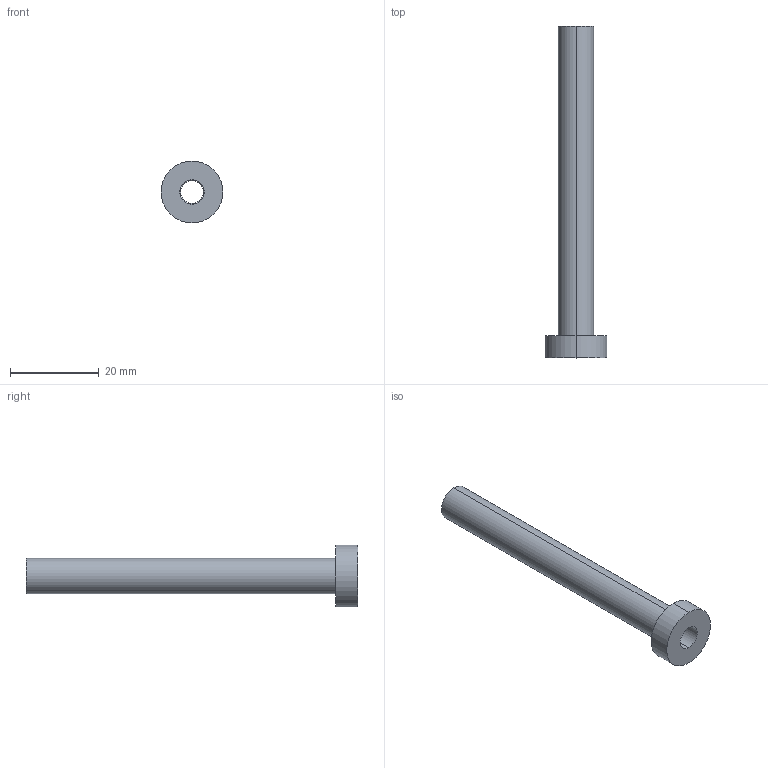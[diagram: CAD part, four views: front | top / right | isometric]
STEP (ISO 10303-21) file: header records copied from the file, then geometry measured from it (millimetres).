
FILE_DESCRIPTION (( 'STEP AP214' ), '1' );
FILE_NAME ('ET-ETN-5,2x75.STEP', '2019-12-16T16:49:42', ( 'August' ), ( '' ), 'SwSTEP 2.0', 'SolidWorks 2018', '' );
FILE_SCHEMA (( 'AUTOMOTIVE_DESIGN' ));
Length unit declared in the file: millimetre
Products named in the file (1): ET-ETN-5,2x75
Bounding box: 14 x 75 x 14 mm (x, y, z)
Volume: 2620 mm3; surface area: 3496.6 mm2
Topology: 1 solids, 1 shells, 13 faces, 26 edges, 16 vertices
Faces by surface type: cylinder 8, plane 3, cone 2
Entity records: 382 total; most frequent: DIRECTION 70, CARTESIAN_POINT 56, ORIENTED_EDGE 52, AXIS2_PLACEMENT_3D 30, EDGE_CURVE 26, EDGE_LOOP 16, VERTEX_POINT 16, CIRCLE 16
